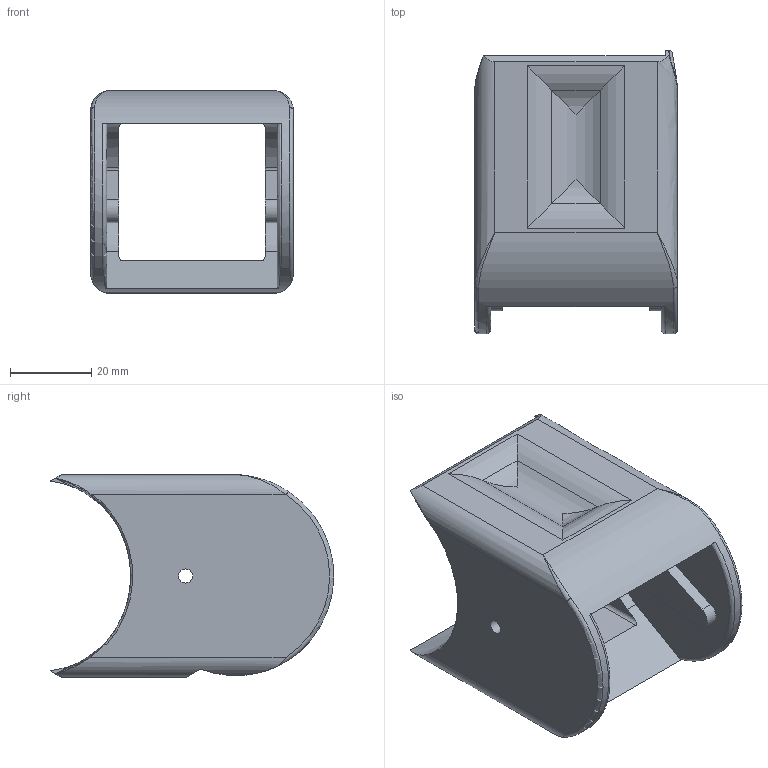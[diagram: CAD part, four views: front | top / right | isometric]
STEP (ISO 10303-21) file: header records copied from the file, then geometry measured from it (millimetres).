
FILE_DESCRIPTION((''),'2;1');
FILE_NAME('C:\Uebbing\PARAMETERKETTEN\PFR\PFR 221\PFR 221 Glied R100 abgeschlagen.stp','2012-03-30T08:16:32',('Uebbing'),(''),'Autodesk Inventor 10','Autodesk Inventor 10','');
FILE_SCHEMA(('AUTOMOTIVE_DESIGN { 1 0 10303 214 1 1 1 1 }'));
Length unit declared in the file: millimetre
Products named in the file (1): PFR 221 Glied R100 abgeschlagen
Bounding box: 50 x 69.82 x 50 mm (x, y, z)
Volume: 48577.6 mm3; surface area: 20466.4 mm2
Topology: 1 solids, 1 shells, 75 faces, 202 edges, 130 vertices
Faces by surface type: bspline 31, cylinder 21, plane 19, torus 4
Full cylindrical faces by diameter (mm): 3.5 x1
Entity records: 3752 total; most frequent: CARTESIAN_POINT 1982, ORIENTED_EDGE 396, DIRECTION 314, EDGE_CURVE 198, VERTEX_POINT 130, AXIS2_PLACEMENT_3D 112, VECTOR 90, LINE 90
